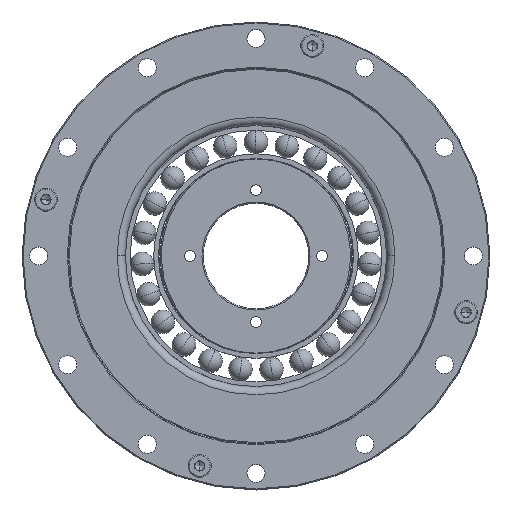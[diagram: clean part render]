
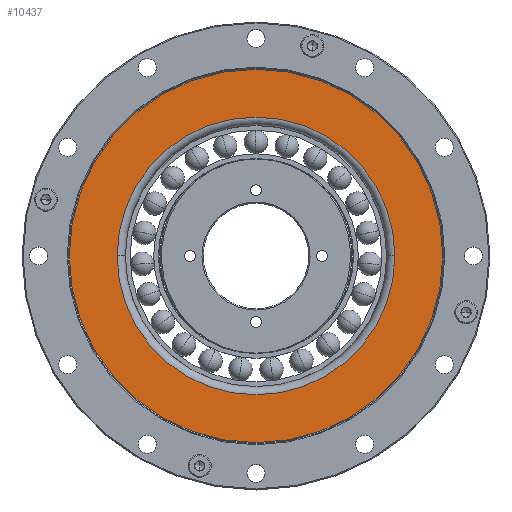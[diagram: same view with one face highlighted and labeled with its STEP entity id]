
A CAD part, top view. The second image highlights one B-rep face of the part: STEP entity #10437.
In plain terms, the highlighted planar face has unit normal (0, 0, 1).
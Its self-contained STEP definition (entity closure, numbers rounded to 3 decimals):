
#47 = EDGE_LOOP ( 'NONE', ( #10934, #2187 ) ) ;
#188 = FACE_OUTER_BOUND ( 'NONE', #11081, .T. ) ;
#1110 = AXIS2_PLACEMENT_3D ( 'NONE', #11078, #11058, #11019 ) ;
#1386 = VERTEX_POINT ( 'NONE', #10648 ) ;
#1725 = DIRECTION ( 'NONE',  ( -1., 0., 0. ) ) ;
#1817 = CARTESIAN_POINT ( 'NONE',  ( -66.211, 1.59, 154.61 ) ) ;
#1907 = FACE_BOUND ( 'NONE', #47, .T. ) ;
#2187 = ORIENTED_EDGE ( 'NONE', *, *, #6615, .F. ) ;
#2247 = CARTESIAN_POINT ( 'NONE',  ( 32.589, 1.59, 154.61 ) ) ;
#3353 = PLANE ( 'NONE',  #12234 ) ;
#3679 = CARTESIAN_POINT ( 'NONE',  ( -9.541, 58.26, 154.61 ) ) ;
#4696 = DIRECTION ( 'NONE',  ( 0., 0., 1. ) ) ;
#4909 = ORIENTED_EDGE ( 'NONE', *, *, #8497, .T. ) ;
#5173 = VERTEX_POINT ( 'NONE', #1817 ) ;
#5193 = CIRCLE ( 'NONE', #12121, 42.13 ) ;
#5430 = EDGE_CURVE ( 'NONE', #11956, #8889, #11874, .T. ) ;
#5667 = CARTESIAN_POINT ( 'NONE',  ( -51.671, 1.59, 154.61 ) ) ;
#5980 = ORIENTED_EDGE ( 'NONE', *, *, #8141, .T. ) ;
#6615 = EDGE_CURVE ( 'NONE', #8889, #11956, #5193, .T. ) ;
#7202 = CARTESIAN_POINT ( 'NONE',  ( -9.541, 1.59, 154.61 ) ) ;
#7275 = DIRECTION ( 'NONE',  ( 1., 0., 0. ) ) ;
#7284 = DIRECTION ( 'NONE',  ( 0., 0., 1. ) ) ;
#8141 = EDGE_CURVE ( 'NONE', #5173, #1386, #9406, .T. ) ;
#8252 = DIRECTION ( 'NONE',  ( 1., 0., 0. ) ) ;
#8326 = DIRECTION ( 'NONE',  ( 1., 0., 0. ) ) ;
#8335 = DIRECTION ( 'NONE',  ( 0., 0., 1. ) ) ;
#8351 = CARTESIAN_POINT ( 'NONE',  ( -9.541, 1.59, 154.61 ) ) ;
#8369 = CARTESIAN_POINT ( 'NONE',  ( -9.541, 1.59, 154.61 ) ) ;
#8497 = EDGE_CURVE ( 'NONE', #1386, #5173, #11146, .T. ) ;
#8889 = VERTEX_POINT ( 'NONE', #5667 ) ;
#9269 = DIRECTION ( 'NONE',  ( 0., 0., -1. ) ) ;
#9406 = CIRCLE ( 'NONE', #1110, 56.67 ) ;
#9603 = AXIS2_PLACEMENT_3D ( 'NONE', #8351, #8335, #8326 ) ;
#10437 = ADVANCED_FACE ( 'NONE', ( #1907, #188 ), #3353, .F. ) ;
#10648 = CARTESIAN_POINT ( 'NONE',  ( 47.129, 1.59, 154.61 ) ) ;
#10934 = ORIENTED_EDGE ( 'NONE', *, *, #5430, .F. ) ;
#11019 = DIRECTION ( 'NONE',  ( 1., 0., 0. ) ) ;
#11058 = DIRECTION ( 'NONE',  ( 0., 0., 1. ) ) ;
#11078 = CARTESIAN_POINT ( 'NONE',  ( -9.541, 1.59, 154.61 ) ) ;
#11081 = EDGE_LOOP ( 'NONE', ( #4909, #5980 ) ) ;
#11146 = CIRCLE ( 'NONE', #9603, 56.67 ) ;
#11213 = AXIS2_PLACEMENT_3D ( 'NONE', #7202, #7284, #7275 ) ;
#11874 = CIRCLE ( 'NONE', #11213, 42.13 ) ;
#11956 = VERTEX_POINT ( 'NONE', #2247 ) ;
#12121 = AXIS2_PLACEMENT_3D ( 'NONE', #8369, #4696, #8252 ) ;
#12234 = AXIS2_PLACEMENT_3D ( 'NONE', #3679, #9269, #1725 ) ;
